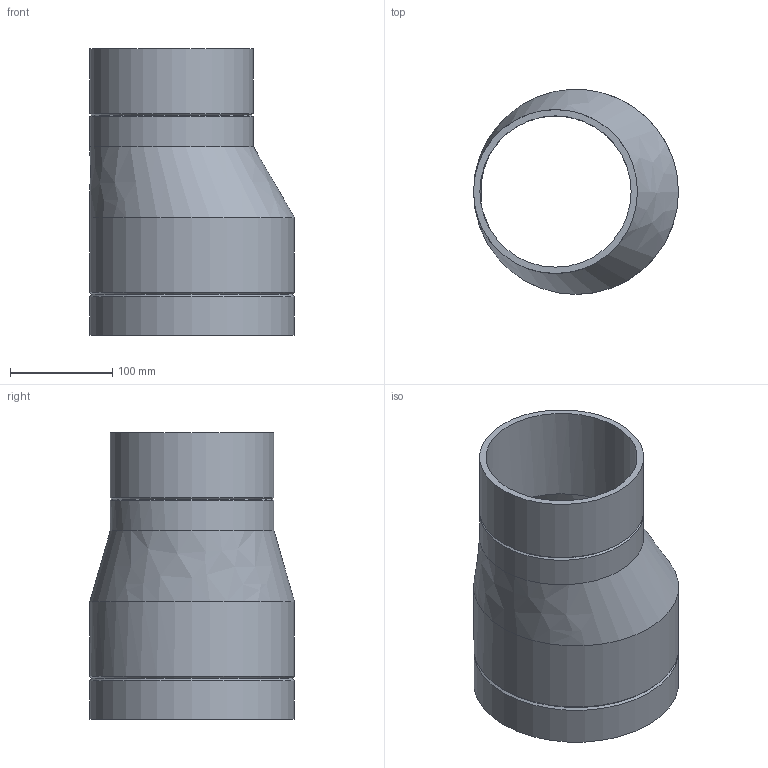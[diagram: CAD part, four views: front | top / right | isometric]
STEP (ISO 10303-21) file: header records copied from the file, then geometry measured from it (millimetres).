
FILE_DESCRIPTION(/* description */ (''),/* implementation_level */ '2;1');
FILE_NAME(/* name */ 'Z:\Geberit\Export\NewStep\370594.stp',/* time_stamp */ '2014-04-02T08:04:21+02:00',/* author */ ('nelson'),/* organization */ (''),/* preprocessor_version */ 'ST-DEVELOPER v15.2',/* originating_system */ 'Autodesk Inventor 2014',/* authorisation */ '');
FILE_SCHEMA (('AUTOMOTIVE_DESIGN { 1 0 10303 214 3 1 1 }'));
Length unit declared in the file: millimetre
Products named in the file (1): 370594
Bounding box: 200 x 200 x 280 mm (x, y, z)
Volume: 951533.6 mm3; surface area: 321058.8 mm2
Topology: 1 solids, 1 shells, 14 faces, 35 edges, 23 vertices
Faces by surface type: cylinder 6, cone 4, bspline 2, plane 2
Full cylindrical faces by diameter (mm): 147.6 x1, 160 x2, 187.6 x1, 200 x2
Entity records: 397 total; most frequent: CARTESIAN_POINT 89, DIRECTION 62, ORIENTED_EDGE 40, AXIS2_PLACEMENT_3D 31, EDGE_LOOP 26, EDGE_CURVE 20, CIRCLE 18, VERTEX_POINT 18
